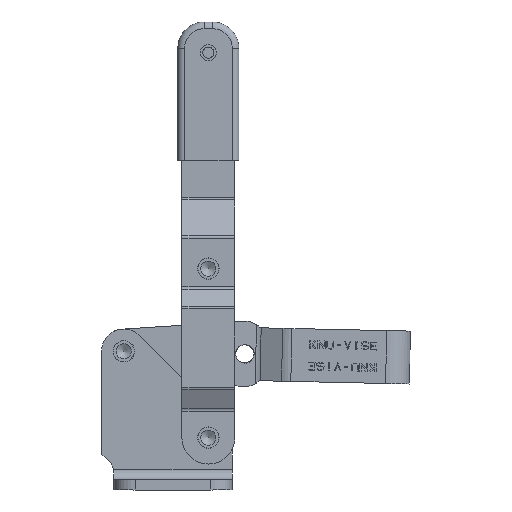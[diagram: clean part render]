
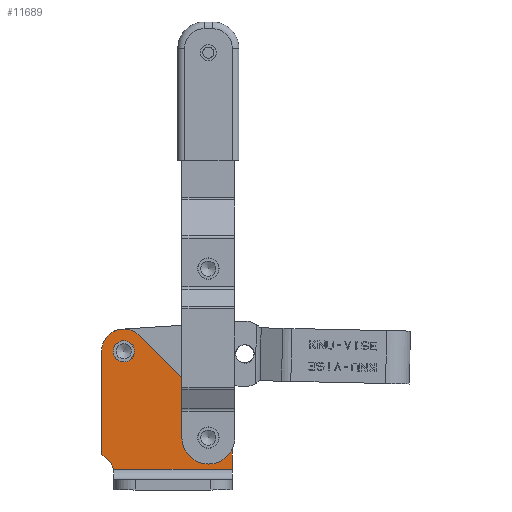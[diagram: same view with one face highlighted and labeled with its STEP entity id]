
A CAD part, front view. The second image highlights one B-rep face of the part: STEP entity #11689.
In plain terms, the highlighted planar face has unit normal (0, -1, 0).
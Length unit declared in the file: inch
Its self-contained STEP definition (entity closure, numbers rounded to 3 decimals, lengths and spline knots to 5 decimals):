
#1310=LINE('',#45756,#5150);
#1311=LINE('',#45760,#5151);
#1312=LINE('',#45762,#5152);
#1313=LINE('',#45766,#5153);
#5150=VECTOR('',#37143,1.);
#5151=VECTOR('',#37146,1.);
#5152=VECTOR('',#37147,1.);
#5153=VECTOR('',#37150,1.);
#8575=PLANE('',#32954);
#10048=FACE_OUTER_BOUND('',#14171,.T.);
#11689=ADVANCED_FACE('',(#13226,#10048,#13227),#8575,.F.);
#13226=FACE_BOUND('',#14170,.T.);
#13227=FACE_BOUND('',#14172,.T.);
#14170=EDGE_LOOP('',(#18378));
#14171=EDGE_LOOP('',(#18379,#18380,#18381,#18382,#18383,#18384,#18385));
#14172=EDGE_LOOP('',(#18386));
#18378=ORIENTED_EDGE('',*,*,#28743,.F.);
#18379=ORIENTED_EDGE('',*,*,#28744,.F.);
#18380=ORIENTED_EDGE('',*,*,#28745,.T.);
#18381=ORIENTED_EDGE('',*,*,#28746,.T.);
#18382=ORIENTED_EDGE('',*,*,#28747,.T.);
#18383=ORIENTED_EDGE('',*,*,#28748,.F.);
#18384=ORIENTED_EDGE('',*,*,#28749,.F.);
#18385=ORIENTED_EDGE('',*,*,#28750,.T.);
#18386=ORIENTED_EDGE('',*,*,#28751,.F.);
#25306=VERTEX_POINT('',#45752);
#25307=VERTEX_POINT('',#45754);
#25308=VERTEX_POINT('',#45755);
#25309=VERTEX_POINT('',#45757);
#25310=VERTEX_POINT('',#45759);
#25311=VERTEX_POINT('',#45761);
#25312=VERTEX_POINT('',#45763);
#25313=VERTEX_POINT('',#45765);
#25314=VERTEX_POINT('',#45768);
#28743=EDGE_CURVE('',#25306,#25306,#31883,.T.);
#28744=EDGE_CURVE('',#25307,#25308,#31884,.T.);
#28745=EDGE_CURVE('',#25307,#25309,#1310,.T.);
#28746=EDGE_CURVE('',#25309,#25310,#31885,.T.);
#28747=EDGE_CURVE('',#25310,#25311,#1311,.T.);
#28748=EDGE_CURVE('',#25312,#25311,#1312,.T.);
#28749=EDGE_CURVE('',#25313,#25312,#31886,.T.);
#28750=EDGE_CURVE('',#25313,#25308,#1313,.T.);
#28751=EDGE_CURVE('',#25314,#25314,#31887,.T.);
#31883=CIRCLE('',#32949,0.1265);
#31884=CIRCLE('',#32950,0.263);
#31885=CIRCLE('',#32951,0.354);
#31886=CIRCLE('',#32952,0.281);
#31887=CIRCLE('',#32953,0.1265);
#32949=AXIS2_PLACEMENT_3D('',#45751,#37139,#37140);
#32950=AXIS2_PLACEMENT_3D('',#45753,#37141,#37142);
#32951=AXIS2_PLACEMENT_3D('',#45758,#37144,#37145);
#32952=AXIS2_PLACEMENT_3D('',#45764,#37148,#37149);
#32953=AXIS2_PLACEMENT_3D('',#45767,#37151,#37152);
#32954=AXIS2_PLACEMENT_3D('',#45769,#37153,#37154);
#37139=DIRECTION('',(0.,-1.,0.));
#37140=DIRECTION('',(0.,0.,1.));
#37141=DIRECTION('',(0.,1.,0.));
#37142=DIRECTION('',(-1.,0.,0.));
#37143=DIRECTION('',(0.,0.,-1.));
#37144=DIRECTION('',(0.,1.,0.));
#37145=DIRECTION('',(-1.,0.,0.));
#37146=DIRECTION('',(1.,0.,0.));
#37147=DIRECTION('',(0.,0.,-1.));
#37148=DIRECTION('',(0.,1.,0.));
#37149=DIRECTION('',(-1.,0.,0.));
#37150=DIRECTION('',(-0.708,0.,0.706));
#37151=DIRECTION('',(0.,-1.,0.));
#37152=DIRECTION('',(0.,0.,1.));
#37153=DIRECTION('',(0.,1.,0.));
#37154=DIRECTION('',(0.,0.,1.));
#45751=CARTESIAN_POINT('',(-1.,-0.25,1.022));
#45752=CARTESIAN_POINT('',(-1.,-0.25,1.1485));
#45753=CARTESIAN_POINT('',(-1.,-0.25,1.022));
#45754=CARTESIAN_POINT('',(-1.263,-0.25,1.022));
#45755=CARTESIAN_POINT('',(-0.81435,-0.25,1.20829));
#45756=CARTESIAN_POINT('',(-1.263,-0.25,1.022));
#45757=CARTESIAN_POINT('',(-1.263,-0.25,-0.19919));
#45758=CARTESIAN_POINT('',(-1.448,-0.25,-0.501));
#45759=CARTESIAN_POINT('',(-1.11718,-0.25,-0.375));
#45760=CARTESIAN_POINT('',(-1.11718,-0.25,-0.375));
#45761=CARTESIAN_POINT('',(0.281,-0.25,-0.375));
#45762=CARTESIAN_POINT('',(0.281,-0.25,0.));
#45763=CARTESIAN_POINT('',(0.281,-0.25,0.));
#45764=CARTESIAN_POINT('',(0.,-0.25,0.));
#45765=CARTESIAN_POINT('',(0.19836,-0.25,0.19904));
#45766=CARTESIAN_POINT('',(0.19836,-0.25,0.19904));
#45767=CARTESIAN_POINT('',(0.,-0.25,0.));
#45768=CARTESIAN_POINT('',(0.,-0.25,0.1265));
#45769=CARTESIAN_POINT('',(-1.,-0.25,1.022));
